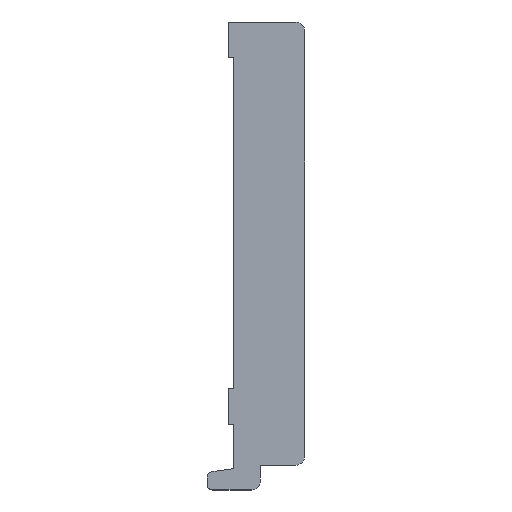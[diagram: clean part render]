
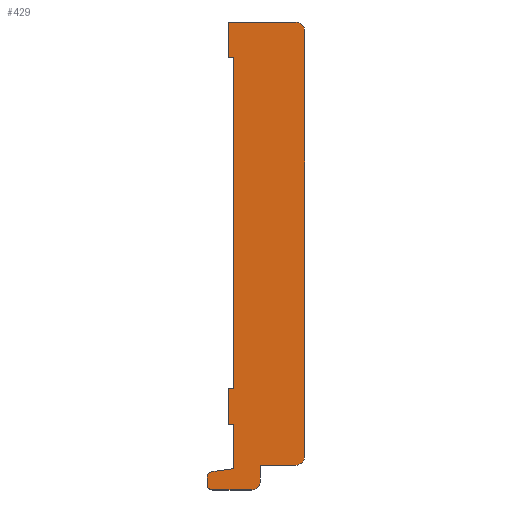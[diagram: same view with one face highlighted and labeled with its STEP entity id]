
A CAD part, top view. The second image highlights one B-rep face of the part: STEP entity #429.
In plain terms, the highlighted planar face has unit normal (0, 0, 1).
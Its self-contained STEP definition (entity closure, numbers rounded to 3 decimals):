
#6 = CARTESIAN_POINT ( 'NONE',  ( -3., 43., 1.5 ) ) ;
#7 = ORIENTED_EDGE ( 'NONE', *, *, #245, .F. ) ;
#8 = LINE ( 'NONE', #616, #39 ) ;
#15 = ORIENTED_EDGE ( 'NONE', *, *, #404, .T. ) ;
#20 = EDGE_CURVE ( 'NONE', #98, #345, #34, .T. ) ;
#22 = CARTESIAN_POINT ( 'NONE',  ( 10., -14., 1.5 ) ) ;
#23 = VERTEX_POINT ( 'NONE', #430 ) ;
#34 = CIRCLE ( 'NONE', #214, 5. ) ;
#38 = DIRECTION ( 'NONE',  ( 1., 0., 0. ) ) ;
#39 = VECTOR ( 'NONE', #228, 1000. ) ;
#47 = CARTESIAN_POINT ( 'NONE',  ( -15., -6.627, 1.5 ) ) ;
#51 = VECTOR ( 'NONE', #38, 1000. ) ;
#52 = DIRECTION ( 'NONE',  ( 0., -1., 0. ) ) ;
#61 = DIRECTION ( 'NONE',  ( 0., 1., 0. ) ) ;
#77 = VECTOR ( 'NONE', #61, 1000. ) ;
#83 = DIRECTION ( 'NONE',  ( 1., 0., 0. ) ) ;
#85 = VERTEX_POINT ( 'NONE', #593 ) ;
#87 = VECTOR ( 'NONE', #330, 1000. ) ;
#88 = CARTESIAN_POINT ( 'NONE',  ( -3., 230., 1.5 ) ) ;
#89 = VECTOR ( 'NONE', #576, 1000. ) ;
#98 = VERTEX_POINT ( 'NONE', #144 ) ;
#102 = VERTEX_POINT ( 'NONE', #88 ) ;
#104 = CARTESIAN_POINT ( 'NONE',  ( 35., 245., 1.5 ) ) ;
#105 = VECTOR ( 'NONE', #443, 1000. ) ;
#107 = ORIENTED_EDGE ( 'NONE', *, *, #586, .T. ) ;
#113 = VERTEX_POINT ( 'NONE', #643 ) ;
#126 = DIRECTION ( 'NONE',  ( 0., -1., 0. ) ) ;
#127 = VECTOR ( 'NONE', #126, 1000. ) ;
#129 = CARTESIAN_POINT ( 'NONE',  ( 0., 0., 1.5 ) ) ;
#133 = CIRCLE ( 'NONE', #307, 3. ) ;
#135 = LINE ( 'NONE', #218, #160 ) ;
#136 = DIRECTION ( 'NONE',  ( 0., 0., 1. ) ) ;
#137 = VERTEX_POINT ( 'NONE', #22 ) ;
#140 = VERTEX_POINT ( 'NONE', #539 ) ;
#142 = VECTOR ( 'NONE', #610, 1000. ) ;
#144 = CARTESIAN_POINT ( 'NONE',  ( 35., 0., 1.5 ) ) ;
#146 = ORIENTED_EDGE ( 'NONE', *, *, #20, .T. ) ;
#160 = VECTOR ( 'NONE', #83, 1000. ) ;
#163 = CARTESIAN_POINT ( 'NONE',  ( -3., 23., 1.5 ) ) ;
#164 = ORIENTED_EDGE ( 'NONE', *, *, #592, .F. ) ;
#165 = DIRECTION ( 'NONE',  ( 0., 1., 0. ) ) ;
#166 = CARTESIAN_POINT ( 'NONE',  ( -6., 43., 1.5 ) ) ;
#171 = EDGE_CURVE ( 'NONE', #172, #553, #392, .T. ) ;
#172 = VERTEX_POINT ( 'NONE', #47 ) ;
#173 = LINE ( 'NONE', #673, #206 ) ;
#191 = VERTEX_POINT ( 'NONE', #163 ) ;
#192 = DIRECTION ( 'NONE',  ( -1., 0., 0. ) ) ;
#204 = ORIENTED_EDGE ( 'NONE', *, *, #234, .T. ) ;
#206 = VECTOR ( 'NONE', #509, 1000. ) ;
#208 = ORIENTED_EDGE ( 'NONE', *, *, #508, .T. ) ;
#210 = DIRECTION ( 'NONE',  ( 1., 0., 0. ) ) ;
#213 = DIRECTION ( 'NONE',  ( 0., 0., 1. ) ) ;
#214 = AXIS2_PLACEMENT_3D ( 'NONE', #251, #136, #479 ) ;
#217 = CIRCLE ( 'NONE', #369, 3. ) ;
#218 = CARTESIAN_POINT ( 'NONE',  ( 10., -14., 1.5 ) ) ;
#223 = CARTESIAN_POINT ( 'NONE',  ( -15., -4., 1.5 ) ) ;
#227 = ORIENTED_EDGE ( 'NONE', *, *, #418, .T. ) ;
#228 = DIRECTION ( 'NONE',  ( 0., 1., 0. ) ) ;
#230 = ORIENTED_EDGE ( 'NONE', *, *, #497, .F. ) ;
#234 = EDGE_CURVE ( 'NONE', #648, #465, #283, .T. ) ;
#236 = CARTESIAN_POINT ( 'NONE',  ( -3., 250., 1.5 ) ) ;
#240 = AXIS2_PLACEMENT_3D ( 'NONE', #104, #213, #437 ) ;
#245 = EDGE_CURVE ( 'NONE', #694, #85, #447, .T. ) ;
#248 = EDGE_CURVE ( 'NONE', #23, #85, #617, .T. ) ;
#251 = CARTESIAN_POINT ( 'NONE',  ( 35., 5., 1.5 ) ) ;
#262 = DIRECTION ( 'NONE',  ( 1., 0., 0. ) ) ;
#270 = PLANE ( 'NONE',  #240 ) ;
#276 = ORIENTED_EDGE ( 'NONE', *, *, #401, .T. ) ;
#278 = CARTESIAN_POINT ( 'NONE',  ( 40., 245., 1.5 ) ) ;
#282 = CARTESIAN_POINT ( 'NONE',  ( -12., -14., 1.5 ) ) ;
#283 = LINE ( 'NONE', #502, #142 ) ;
#284 = CARTESIAN_POINT ( 'NONE',  ( 0., -2., 1.5 ) ) ;
#296 = EDGE_CURVE ( 'NONE', #140, #113, #467, .T. ) ;
#306 = VECTOR ( 'NONE', #52, 1000. ) ;
#307 = AXIS2_PLACEMENT_3D ( 'NONE', #677, #450, #620 ) ;
#324 = CARTESIAN_POINT ( 'NONE',  ( -12., -11., 1.5 ) ) ;
#328 = EDGE_CURVE ( 'NONE', #191, #431, #409, .T. ) ;
#330 = DIRECTION ( 'NONE',  ( 0., -1., 0. ) ) ;
#343 = LINE ( 'NONE', #6, #77 ) ;
#345 = VERTEX_POINT ( 'NONE', #573 ) ;
#346 = CARTESIAN_POINT ( 'NONE',  ( -15., -4., 1.5 ) ) ;
#353 = ORIENTED_EDGE ( 'NONE', *, *, #171, .T. ) ;
#354 = CARTESIAN_POINT ( 'NONE',  ( -12.396, -3.653, 1.5 ) ) ;
#367 = ORIENTED_EDGE ( 'NONE', *, *, #486, .T. ) ;
#369 = AXIS2_PLACEMENT_3D ( 'NONE', #324, #415, #262 ) ;
#391 = CARTESIAN_POINT ( 'NONE',  ( 40., 5., 1.5 ) ) ;
#392 = LINE ( 'NONE', #223, #87 ) ;
#394 = VECTOR ( 'NONE', #632, 1000. ) ;
#397 = ORIENTED_EDGE ( 'NONE', *, *, #248, .T. ) ;
#401 = EDGE_CURVE ( 'NONE', #442, #648, #438, .T. ) ;
#404 = EDGE_CURVE ( 'NONE', #553, #541, #217, .T. ) ;
#409 = LINE ( 'NONE', #570, #89 ) ;
#415 = DIRECTION ( 'NONE',  ( 0., 0., 1. ) ) ;
#418 = EDGE_CURVE ( 'NONE', #541, #137, #135, .T. ) ;
#424 = EDGE_CURVE ( 'NONE', #102, #23, #714, .T. ) ;
#427 = ORIENTED_EDGE ( 'NONE', *, *, #666, .T. ) ;
#429 = ADVANCED_FACE ( 'NONE', ( #491 ), #270, .T. ) ;
#430 = CARTESIAN_POINT ( 'NONE',  ( 0., 230., 1.5 ) ) ;
#431 = VERTEX_POINT ( 'NONE', #667 ) ;
#434 = ORIENTED_EDGE ( 'NONE', *, *, #546, .T. ) ;
#436 = VECTOR ( 'NONE', #210, 1000. ) ;
#437 = DIRECTION ( 'NONE',  ( 1., 0., 0. ) ) ;
#438 = CIRCLE ( 'NONE', #609, 5. ) ;
#439 = CARTESIAN_POINT ( 'NONE',  ( 0., 0., 1.5 ) ) ;
#442 = VERTEX_POINT ( 'NONE', #278 ) ;
#443 = DIRECTION ( 'NONE',  ( -0.991, -0.132, 0. ) ) ;
#447 = LINE ( 'NONE', #166, #436 ) ;
#450 = DIRECTION ( 'NONE',  ( 0., 0., 1. ) ) ;
#465 = VERTEX_POINT ( 'NONE', #236 ) ;
#467 = LINE ( 'NONE', #628, #394 ) ;
#479 = DIRECTION ( 'NONE',  ( 1., 0., 0. ) ) ;
#486 = EDGE_CURVE ( 'NONE', #345, #442, #521, .T. ) ;
#487 = VECTOR ( 'NONE', #165, 1000. ) ;
#491 = FACE_OUTER_BOUND ( 'NONE', #556, .T. ) ;
#497 = EDGE_CURVE ( 'NONE', #102, #465, #8, .T. ) ;
#499 = ORIENTED_EDGE ( 'NONE', *, *, #296, .T. ) ;
#500 = DIRECTION ( 'NONE',  ( 1., 0., 0. ) ) ;
#502 = CARTESIAN_POINT ( 'NONE',  ( 0., 250., 1.5 ) ) ;
#508 = EDGE_CURVE ( 'NONE', #571, #615, #516, .T. ) ;
#509 = DIRECTION ( 'NONE',  ( 1., 0., 0. ) ) ;
#516 = LINE ( 'NONE', #346, #105 ) ;
#517 = AXIS2_PLACEMENT_3D ( 'NONE', #578, #644, #192 ) ;
#521 = LINE ( 'NONE', #391, #487 ) ;
#529 = CARTESIAN_POINT ( 'NONE',  ( -3., 43., 1.5 ) ) ;
#536 = CARTESIAN_POINT ( 'NONE',  ( 35., 250., 1.5 ) ) ;
#539 = CARTESIAN_POINT ( 'NONE',  ( 15., -9., 1.5 ) ) ;
#541 = VERTEX_POINT ( 'NONE', #282 ) ;
#546 = EDGE_CURVE ( 'NONE', #113, #98, #173, .T. ) ;
#553 = VERTEX_POINT ( 'NONE', #560 ) ;
#554 = CARTESIAN_POINT ( 'NONE',  ( 35., 245., 1.5 ) ) ;
#556 = EDGE_LOOP ( 'NONE', ( #353, #15, #227, #427, #499, #434, #146, #367, #276, #204, #230, #672, #397, #7, #164, #568, #722, #208, #107 ) ) ;
#560 = CARTESIAN_POINT ( 'NONE',  ( -15., -11., 1.5 ) ) ;
#565 = CIRCLE ( 'NONE', #517, 5. ) ;
#568 = ORIENTED_EDGE ( 'NONE', *, *, #328, .T. ) ;
#570 = CARTESIAN_POINT ( 'NONE',  ( -6., 23., 1.5 ) ) ;
#571 = VERTEX_POINT ( 'NONE', #284 ) ;
#573 = CARTESIAN_POINT ( 'NONE',  ( 40., 5., 1.5 ) ) ;
#576 = DIRECTION ( 'NONE',  ( 1., 0., 0. ) ) ;
#578 = CARTESIAN_POINT ( 'NONE',  ( 10., -9., 1.5 ) ) ;
#586 = EDGE_CURVE ( 'NONE', #615, #172, #133, .T. ) ;
#592 = EDGE_CURVE ( 'NONE', #191, #694, #343, .T. ) ;
#593 = CARTESIAN_POINT ( 'NONE',  ( 0., 43., 1.5 ) ) ;
#602 = DIRECTION ( 'NONE',  ( 0., 0., 1. ) ) ;
#608 = CARTESIAN_POINT ( 'NONE',  ( -6., 230., 1.5 ) ) ;
#609 = AXIS2_PLACEMENT_3D ( 'NONE', #554, #602, #500 ) ;
#610 = DIRECTION ( 'NONE',  ( -1., 0., 0. ) ) ;
#615 = VERTEX_POINT ( 'NONE', #354 ) ;
#616 = CARTESIAN_POINT ( 'NONE',  ( -3., 250., 1.5 ) ) ;
#617 = LINE ( 'NONE', #439, #306 ) ;
#620 = DIRECTION ( 'NONE',  ( 1., 0., 0. ) ) ;
#628 = CARTESIAN_POINT ( 'NONE',  ( 15., 0., 1.5 ) ) ;
#632 = DIRECTION ( 'NONE',  ( 0., 1., 0. ) ) ;
#635 = LINE ( 'NONE', #129, #127 ) ;
#643 = CARTESIAN_POINT ( 'NONE',  ( 15., 0., 1.5 ) ) ;
#644 = DIRECTION ( 'NONE',  ( 0., 0., 1. ) ) ;
#648 = VERTEX_POINT ( 'NONE', #536 ) ;
#666 = EDGE_CURVE ( 'NONE', #137, #140, #565, .T. ) ;
#667 = CARTESIAN_POINT ( 'NONE',  ( 0., 23., 1.5 ) ) ;
#672 = ORIENTED_EDGE ( 'NONE', *, *, #424, .T. ) ;
#673 = CARTESIAN_POINT ( 'NONE',  ( 35., 0., 1.5 ) ) ;
#677 = CARTESIAN_POINT ( 'NONE',  ( -12., -6.627, 1.5 ) ) ;
#694 = VERTEX_POINT ( 'NONE', #529 ) ;
#702 = EDGE_CURVE ( 'NONE', #431, #571, #635, .T. ) ;
#714 = LINE ( 'NONE', #608, #51 ) ;
#722 = ORIENTED_EDGE ( 'NONE', *, *, #702, .T. ) ;
